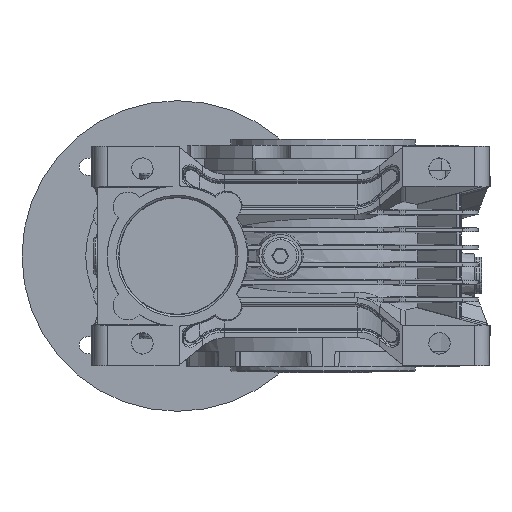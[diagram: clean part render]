
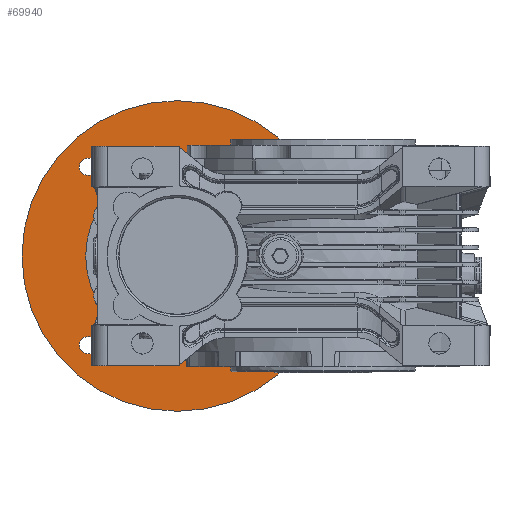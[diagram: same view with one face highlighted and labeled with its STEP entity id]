
A CAD part, front view. The second image highlights one B-rep face of the part: STEP entity #69940.
In plain terms, the highlighted planar face has unit normal (0, -1, 0).
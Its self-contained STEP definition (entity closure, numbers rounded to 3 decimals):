
#410 = CIRCLE ( 'NONE', #77787, 4.5 ) ;
#445 = CARTESIAN_POINT ( 'NONE',  ( -120.962, 101.5, -45.962 ) ) ;
#1521 = VERTEX_POINT ( 'NONE', #40180 ) ;
#4393 = CARTESIAN_POINT ( 'NONE',  ( -29.038, 101.5, -45.962 ) ) ;
#9743 = CARTESIAN_POINT ( 'NONE',  ( -155., 101.5, 0. ) ) ;
#10997 = EDGE_CURVE ( 'NONE', #64827, #37660, #115427, .T. ) ;
#11044 = DIRECTION ( 'NONE',  ( -1., 0., 0. ) ) ;
#11816 = CIRCLE ( 'NONE', #85075, 47.193 ) ;
#12477 = CIRCLE ( 'NONE', #107593, 4.5 ) ;
#13953 = AXIS2_PLACEMENT_3D ( 'NONE', #29420, #103255, #40058 ) ;
#14036 = ORIENTED_EDGE ( 'NONE', *, *, #110347, .T. ) ;
#14991 = DIRECTION ( 'NONE',  ( -1., 0., 0. ) ) ;
#16973 = EDGE_CURVE ( 'NONE', #96552, #50760, #27293, .T. ) ;
#17712 = CARTESIAN_POINT ( 'NONE',  ( -24.538, 101.5, 45.962 ) ) ;
#18713 = CARTESIAN_POINT ( 'NONE',  ( -29.038, 101.5, -45.962 ) ) ;
#19786 = CARTESIAN_POINT ( 'NONE',  ( -33.538, 101.5, 45.962 ) ) ;
#20260 = EDGE_CURVE ( 'NONE', #50760, #96552, #410, .T. ) ;
#20341 = CARTESIAN_POINT ( 'NONE',  ( -120.962, 101.5, -45.962 ) ) ;
#22756 = CARTESIAN_POINT ( 'NONE',  ( -75., 101.5, 0. ) ) ;
#23456 = EDGE_LOOP ( 'NONE', ( #132013, #72935 ) ) ;
#23942 = FACE_BOUND ( 'NONE', #123581, .T. ) ;
#24362 = VERTEX_POINT ( 'NONE', #99346 ) ;
#26862 = CARTESIAN_POINT ( 'NONE',  ( -75., 101.5, 0. ) ) ;
#27293 = CIRCLE ( 'NONE', #46714, 4.5 ) ;
#28410 = CARTESIAN_POINT ( 'NONE',  ( -24.538, 101.5, -45.962 ) ) ;
#29174 = CIRCLE ( 'NONE', #13953, 80. ) ;
#29324 = DIRECTION ( 'NONE',  ( -1., 0., 0. ) ) ;
#29420 = CARTESIAN_POINT ( 'NONE',  ( -75., 101.5, 0. ) ) ;
#29586 = CIRCLE ( 'NONE', #90832, 4.5 ) ;
#30903 = DIRECTION ( 'NONE',  ( -1., 0., 0. ) ) ;
#31255 = EDGE_LOOP ( 'NONE', ( #31902, #84215 ) ) ;
#31902 = ORIENTED_EDGE ( 'NONE', *, *, #16973, .T. ) ;
#31921 = ORIENTED_EDGE ( 'NONE', *, *, #61938, .T. ) ;
#33351 = DIRECTION ( 'NONE',  ( 1., 0., 0. ) ) ;
#35079 = CIRCLE ( 'NONE', #60531, 4.5 ) ;
#36171 = CARTESIAN_POINT ( 'NONE',  ( -75., 101.5, 0. ) ) ;
#36446 = AXIS2_PLACEMENT_3D ( 'NONE', #51788, #62374, #136183 ) ;
#36534 = AXIS2_PLACEMENT_3D ( 'NONE', #59139, #132901, #69712 ) ;
#37481 = DIRECTION ( 'NONE',  ( 1., 0., 0. ) ) ;
#37660 = VERTEX_POINT ( 'NONE', #9743 ) ;
#40058 = DIRECTION ( 'NONE',  ( 1., 0., 0. ) ) ;
#40180 = CARTESIAN_POINT ( 'NONE',  ( -125.462, 101.5, 45.962 ) ) ;
#40714 = PLANE ( 'NONE',  #36446 ) ;
#40953 = EDGE_CURVE ( 'NONE', #100068, #68847, #51059, .T. ) ;
#42318 = DIRECTION ( 'NONE',  ( 0., 1., 0. ) ) ;
#43259 = EDGE_CURVE ( 'NONE', #37660, #64827, #29174, .T. ) ;
#45361 = ORIENTED_EDGE ( 'NONE', *, *, #115284, .T. ) ;
#45407 = FACE_OUTER_BOUND ( 'NONE', #23456, .T. ) ;
#46714 = AXIS2_PLACEMENT_3D ( 'NONE', #445, #74225, #11044 ) ;
#46802 = DIRECTION ( 'NONE',  ( 1., 0., 0. ) ) ;
#47645 = AXIS2_PLACEMENT_3D ( 'NONE', #4393, #78186, #14991 ) ;
#48901 = CARTESIAN_POINT ( 'NONE',  ( -120.962, 101.5, 45.962 ) ) ;
#50760 = VERTEX_POINT ( 'NONE', #64501 ) ;
#50987 = AXIS2_PLACEMENT_3D ( 'NONE', #22756, #96533, #33351 ) ;
#51059 = CIRCLE ( 'NONE', #50987, 47.193 ) ;
#51788 = CARTESIAN_POINT ( 'NONE',  ( -122.193, 101.5, 0. ) ) ;
#54463 = CARTESIAN_POINT ( 'NONE',  ( -29.038, 101.5, 45.962 ) ) ;
#54483 = EDGE_CURVE ( 'NONE', #101062, #59899, #12477, .T. ) ;
#54807 = CARTESIAN_POINT ( 'NONE',  ( -116.462, 101.5, 45.962 ) ) ;
#58714 = EDGE_CURVE ( 'NONE', #68847, #100068, #11816, .T. ) ;
#59139 = CARTESIAN_POINT ( 'NONE',  ( -29.038, 101.5, 45.962 ) ) ;
#59276 = ORIENTED_EDGE ( 'NONE', *, *, #72888, .T. ) ;
#59515 = DIRECTION ( 'NONE',  ( -1., 0., 0. ) ) ;
#59899 = VERTEX_POINT ( 'NONE', #17712 ) ;
#60531 = AXIS2_PLACEMENT_3D ( 'NONE', #105539, #42318, #116120 ) ;
#61938 = EDGE_CURVE ( 'NONE', #98578, #1521, #135241, .T. ) ;
#62374 = DIRECTION ( 'NONE',  ( 0., 1., 0. ) ) ;
#64501 = CARTESIAN_POINT ( 'NONE',  ( -116.462, 101.5, -45.962 ) ) ;
#64827 = VERTEX_POINT ( 'NONE', #119849 ) ;
#65012 = DIRECTION ( 'NONE',  ( -1., 0., 0. ) ) ;
#65792 = ORIENTED_EDGE ( 'NONE', *, *, #54483, .T. ) ;
#68847 = VERTEX_POINT ( 'NONE', #73274 ) ;
#69712 = DIRECTION ( 'NONE',  ( -1., 0., 0. ) ) ;
#69940 = ADVANCED_FACE ( 'NONE', ( #80042, #76743, #23942, #101506, #73407, #45407 ), #40714, .F. ) ;
#72321 = CIRCLE ( 'NONE', #47645, 4.5 ) ;
#72339 = ORIENTED_EDGE ( 'NONE', *, *, #58714, .F. ) ;
#72888 = EDGE_CURVE ( 'NONE', #1521, #98578, #35079, .T. ) ;
#72935 = ORIENTED_EDGE ( 'NONE', *, *, #43259, .T. ) ;
#73274 = CARTESIAN_POINT ( 'NONE',  ( -27.807, 101.5, 0. ) ) ;
#73407 = FACE_BOUND ( 'NONE', #125095, .T. ) ;
#74225 = DIRECTION ( 'NONE',  ( 0., 1., 0. ) ) ;
#76484 = CIRCLE ( 'NONE', #36534, 4.5 ) ;
#76743 = FACE_BOUND ( 'NONE', #31255, .T. ) ;
#77288 = EDGE_LOOP ( 'NONE', ( #65792, #45361 ) ) ;
#77787 = AXIS2_PLACEMENT_3D ( 'NONE', #20341, #94116, #30903 ) ;
#78186 = DIRECTION ( 'NONE',  ( 0., 1., 0. ) ) ;
#80042 = FACE_BOUND ( 'NONE', #90430, .T. ) ;
#84215 = ORIENTED_EDGE ( 'NONE', *, *, #20260, .T. ) ;
#85075 = AXIS2_PLACEMENT_3D ( 'NONE', #36171, #110012, #46802 ) ;
#90430 = EDGE_LOOP ( 'NONE', ( #59276, #31921 ) ) ;
#90832 = AXIS2_PLACEMENT_3D ( 'NONE', #18713, #92523, #29324 ) ;
#91113 = ORIENTED_EDGE ( 'NONE', *, *, #40953, .F. ) ;
#91625 = AXIS2_PLACEMENT_3D ( 'NONE', #48901, #122673, #59515 ) ;
#92523 = DIRECTION ( 'NONE',  ( 0., 1., 0. ) ) ;
#94116 = DIRECTION ( 'NONE',  ( 0., 1., 0. ) ) ;
#96533 = DIRECTION ( 'NONE',  ( 0., -1., 0. ) ) ;
#96552 = VERTEX_POINT ( 'NONE', #100677 ) ;
#98578 = VERTEX_POINT ( 'NONE', #54807 ) ;
#99346 = CARTESIAN_POINT ( 'NONE',  ( -33.538, 101.5, -45.962 ) ) ;
#100068 = VERTEX_POINT ( 'NONE', #126321 ) ;
#100665 = DIRECTION ( 'NONE',  ( 0., -1., 0. ) ) ;
#100677 = CARTESIAN_POINT ( 'NONE',  ( -125.462, 101.5, -45.962 ) ) ;
#101062 = VERTEX_POINT ( 'NONE', #19786 ) ;
#101506 = FACE_BOUND ( 'NONE', #77288, .T. ) ;
#103255 = DIRECTION ( 'NONE',  ( 0., -1., 0. ) ) ;
#104773 = VERTEX_POINT ( 'NONE', #28410 ) ;
#105539 = CARTESIAN_POINT ( 'NONE',  ( -120.962, 101.5, 45.962 ) ) ;
#107010 = ORIENTED_EDGE ( 'NONE', *, *, #109343, .T. ) ;
#107593 = AXIS2_PLACEMENT_3D ( 'NONE', #54463, #128225, #65012 ) ;
#109343 = EDGE_CURVE ( 'NONE', #104773, #24362, #29586, .T. ) ;
#110012 = DIRECTION ( 'NONE',  ( 0., -1., 0. ) ) ;
#110347 = EDGE_CURVE ( 'NONE', #24362, #104773, #72321, .T. ) ;
#115284 = EDGE_CURVE ( 'NONE', #59899, #101062, #76484, .T. ) ;
#115427 = CIRCLE ( 'NONE', #131227, 80. ) ;
#116120 = DIRECTION ( 'NONE',  ( -1., 0., 0. ) ) ;
#119849 = CARTESIAN_POINT ( 'NONE',  ( 5., 101.5, 0. ) ) ;
#122673 = DIRECTION ( 'NONE',  ( 0., 1., 0. ) ) ;
#123581 = EDGE_LOOP ( 'NONE', ( #14036, #107010 ) ) ;
#125095 = EDGE_LOOP ( 'NONE', ( #72339, #91113 ) ) ;
#126321 = CARTESIAN_POINT ( 'NONE',  ( -122.193, 101.5, 0. ) ) ;
#128225 = DIRECTION ( 'NONE',  ( 0., 1., 0. ) ) ;
#131227 = AXIS2_PLACEMENT_3D ( 'NONE', #26862, #100665, #37481 ) ;
#132013 = ORIENTED_EDGE ( 'NONE', *, *, #10997, .T. ) ;
#132901 = DIRECTION ( 'NONE',  ( 0., 1., 0. ) ) ;
#135241 = CIRCLE ( 'NONE', #91625, 4.5 ) ;
#136183 = DIRECTION ( 'NONE',  ( -1., 0., 0. ) ) ;
